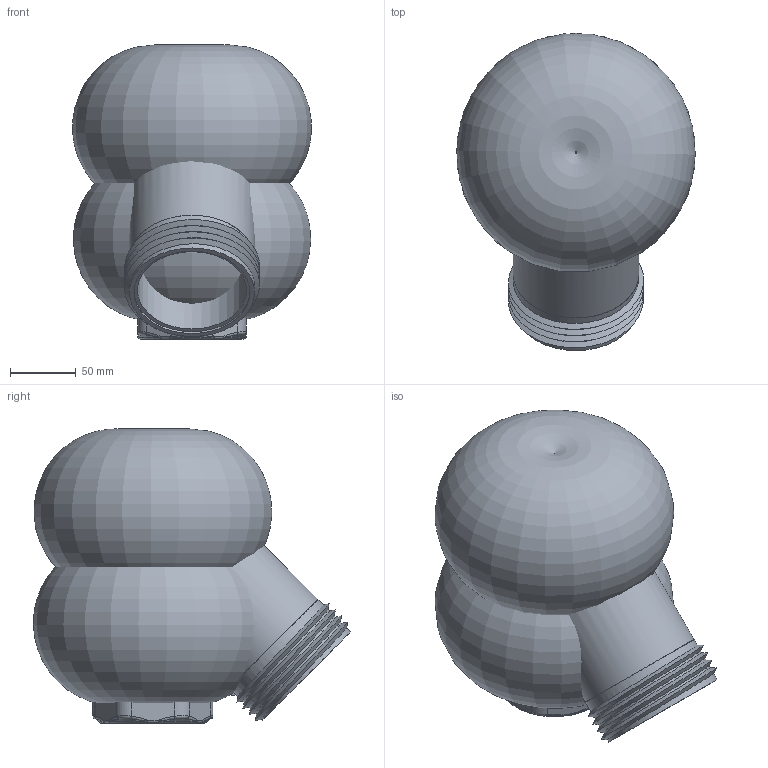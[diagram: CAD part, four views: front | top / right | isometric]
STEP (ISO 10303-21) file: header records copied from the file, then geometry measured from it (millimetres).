
FILE_DESCRIPTION(/* description */ ('Alibre Inc.'),/* implementation_level */ '2;1');
FILE_NAME(/* name */ 'export0',/* time_stamp */ '2016-05-12T11:28:10-04:00',/* author */ (''),/* organization */ (''),/* preprocessor_version */ 'ST-DEVELOPER v14',/* originating_system */ 'Alibre',/* authorisation */ '');
FILE_SCHEMA (('CONFIG_CONTROL_DESIGN'));
Length unit declared in the file: centimetre
Products named in the file (1): ID_1
Bounding box: 181.59 x 241.34 x 223.77 mm (x, y, z)
Volume: 1440110.3 mm3; surface area: 592276.5 mm2
Topology: 1 solids, 1 shells, 303 faces, 755 edges, 440 vertices
Faces by surface type: bspline 83, cylinder 82, torus 55, plane 48, cone 23, sphere 12
Full cylindrical faces by diameter (mm): 44.45 x1, 50.8 x1, 56.337 x2, 56.388 x17, 69.088 x2, 83.109 x1, 88.392 x1, 95.25 x1, 95.26 x4
Entity records: 44983 total; most frequent: CARTESIAN_POINT 39593, ORIENTED_EDGE 1264, DIRECTION 817, EDGE_CURVE 632, AXIS2_PLACEMENT_3D 388, VERTEX_POINT 377, EDGE_LOOP 309, FACE_BOUND 309
